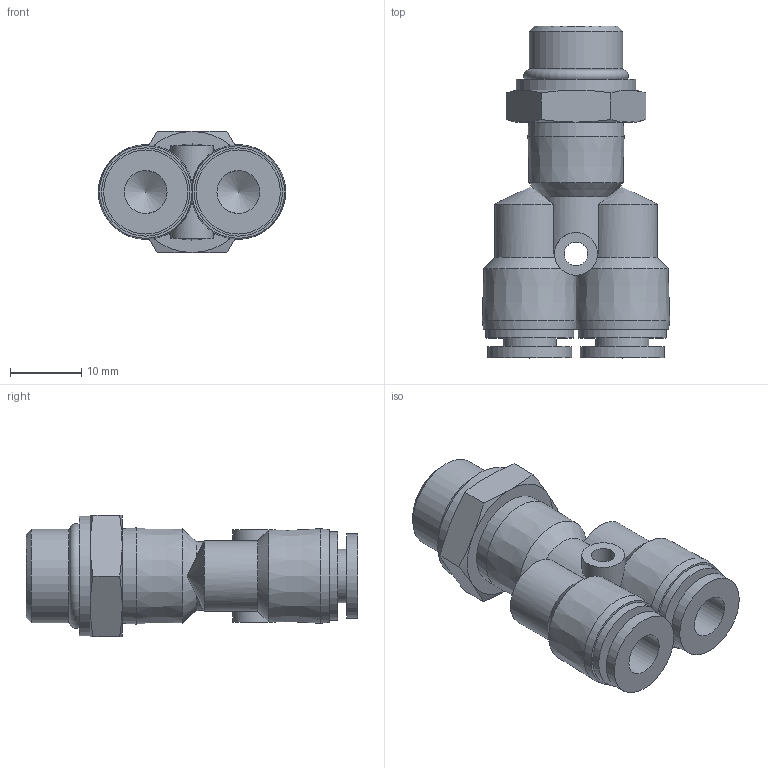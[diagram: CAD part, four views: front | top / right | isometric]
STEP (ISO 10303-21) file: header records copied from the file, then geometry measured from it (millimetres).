
FILE_DESCRIPTION(/* description */ (''),/* implementation_level */ '2;1');
FILE_NAME(/* name */ 'S:\_Tecnico\ArchivioUT\_Disegni3D ingombri\DISEGNI 3D per ingombri\RP\RP 74\RP741406.stp',/* time_stamp */ '2019-09-12T08:49:49+02:00',/* author */ ('ufficiotecnico3'),/* organization */ (''),/* preprocessor_version */ 'ST-DEVELOPER v18',/* originating_system */ 'Autodesk Inventor 2020',/* authorisation */ '');
FILE_SCHEMA (('AUTOMOTIVE_DESIGN { 1 0 10303 214 3 1 1 }'));
Length unit declared in the file: millimetre
Products named in the file (1): RP741406
Bounding box: 26.3 x 46.6 x 17 mm (x, y, z)
Volume: 6624.3 mm3; surface area: 5375.5 mm2
Topology: 1 solids, 2 shells, 73 faces, 206 edges, 138 vertices
Faces by surface type: plane 25, cone 23, cylinder 23, torus 2
Full cylindrical faces by diameter (mm): 3.3 x1, 5 x1, 6 x4, 7.5 x2, 8.3 x1, 11.3 x2, 11.8 x2, 12.4 x2, 13.157 x1, 16.8 x1
Entity records: 2675 total; most frequent: CARTESIAN_POINT 765, DIRECTION 400, ORIENTED_EDGE 396, EDGE_CURVE 198, AXIS2_PLACEMENT_3D 177, VERTEX_POINT 136, CIRCLE 96, EDGE_LOOP 88
